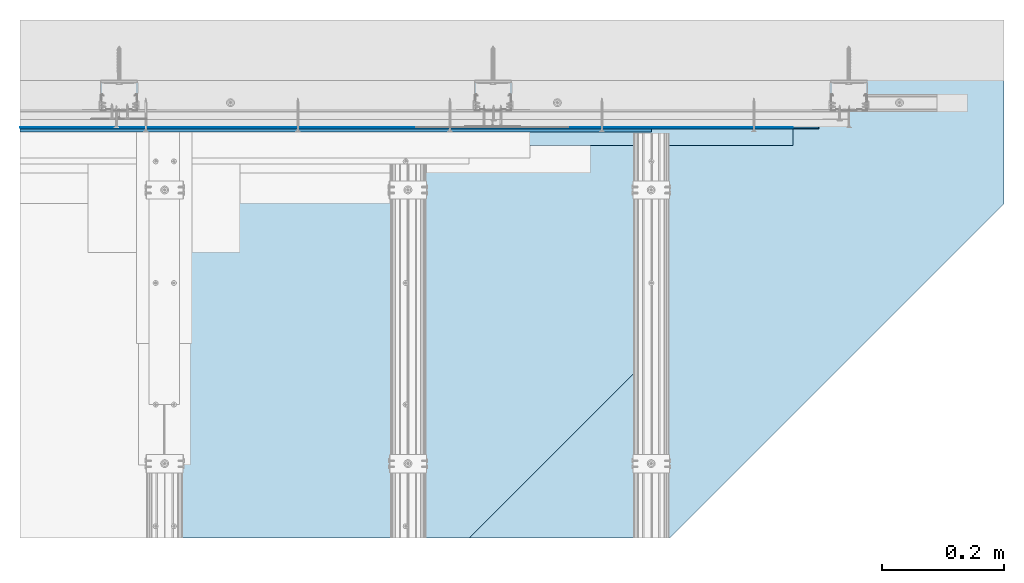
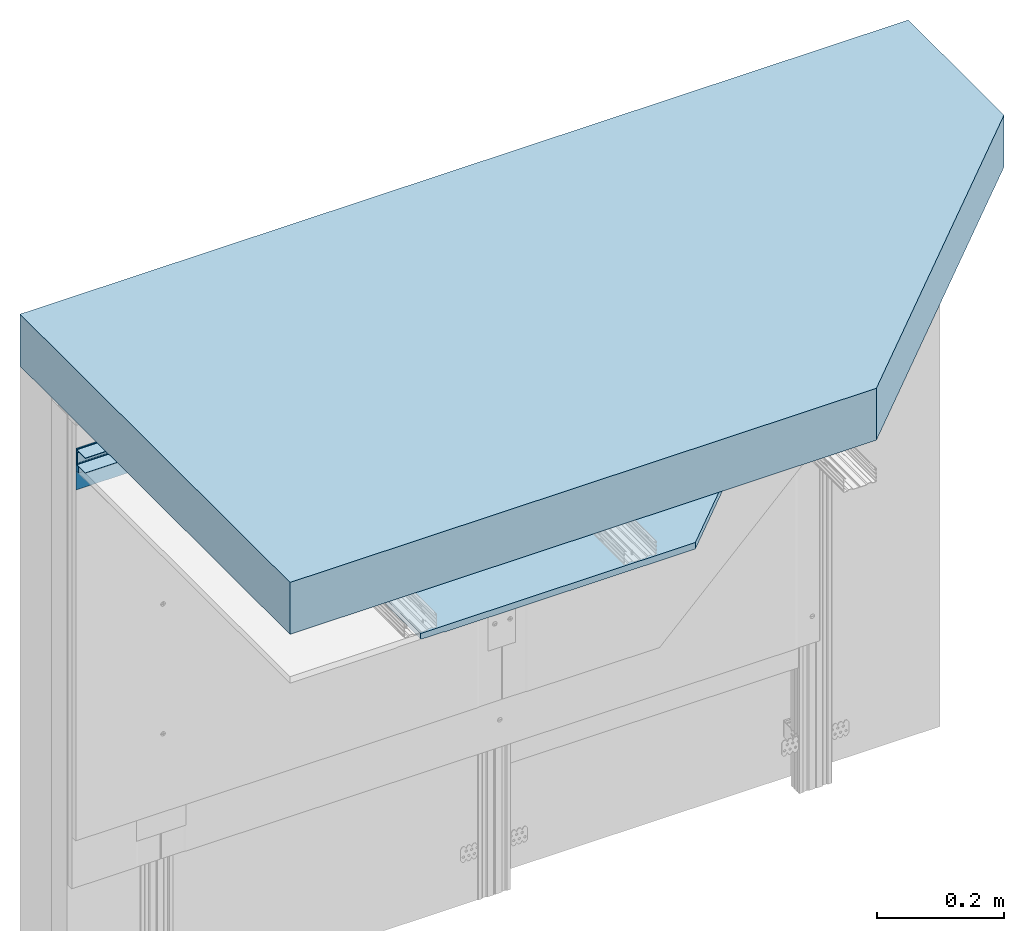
# One storey, part 1 of 62: 6 slabs.
"""IFC2X3 building model written with IfcOpenShell, lengths in millimetres."""

from ifc_helpers import new_model, entity, si_unit, converted_unit, direction, frame, origin, origin_with_axes, place, context, project, spatial, faceted_brep, element, save


model = new_model("IFC2X3")

# Units and contexts
model_context = context("Model", 3, precision=1e-05, world=origin(), true_north=direction((0.0, 1.0, 0.0)))
ifc_project = project(units=[si_unit("LENGTHUNIT", "METRE", prefix="MILLI"), si_unit("AREAUNIT", "SQUARE_METRE"), si_unit("VOLUMEUNIT", "CUBIC_METRE"), converted_unit("PLANEANGLEUNIT", "DEGREE", entity("IfcPlaneAngleMeasure", 0.01745), si_unit("PLANEANGLEUNIT", "RADIAN"), dimensions=[0, 0, 0, 0, 0, 0, 0]), si_unit("SOLIDANGLEUNIT", "STERADIAN"), si_unit("MASSUNIT", "GRAM"), si_unit("TIMEUNIT", "SECOND"), si_unit("THERMODYNAMICTEMPERATUREUNIT", "DEGREE_CELSIUS"), si_unit("LUMINOUSINTENSITYUNIT", "LUMEN")], contexts=[model_context])

# Site, building, storey
site_placement = place(None, origin_with_axes())
site = spatial("IfcSite", under=ifc_project, at=site_placement, Name="Default Site", CompositionType="ELEMENT")
building_placement = place(site_placement, origin_with_axes())
building = spatial("IfcBuilding", under=site, at=building_placement, Name="Default Building", CompositionType="ELEMENT")
storey_placement = place(building_placement, origin_with_axes())
storey = spatial("IfcBuildingStorey", under=building, at=storey_placement, Name="Default Building Storey", CompositionType="ELEMENT", Elevation=0.0)

# Slabs
slab_1_placement = place(storey_placement, frame((3516.951496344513, -1290.142300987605, 1387.224461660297), z_axis=(7.620176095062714e-14, 6.858158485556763e-13, -1.0), x_axis=(1.0, 9.714451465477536e-17, 7.62017609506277e-14)))
element("IfcSlab", 1, at=slab_1_placement, inside=storey, Name="STROP", context=model_context, shape_type="Brep", body=[
    faceted_brep([(226.0891218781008, -3110.283223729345, -4.200000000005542), (-323.9108781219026, -2560.283223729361, -4.20000000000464), (-323.9108781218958, -2560.283223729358, -104.1999999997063), (226.0891218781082, -3110.283223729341, -104.199999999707), (-1391.926362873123, -2560.283223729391, -104.200000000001), (-1391.926362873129, -2560.28322372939, -4.200000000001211), (-1391.926362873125, -3412.283223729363, -104.1999999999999), (226.0891218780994, -3412.283223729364, -104.1999999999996), (-1391.926362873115, -3412.283223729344, -4.199999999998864), (226.0891218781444, -3412.283223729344, -4.200000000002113)], [[[0, 1, 2, 3]], [[4, 2, 1, 5]], [[6, 7, 3, 2, 4]], [[8, 5, 1, 0, 9]], [[0, 3, 7, 9]], [[6, 8, 9, 7]], [[6, 4, 5, 8]]]),
])
slab_2_placement = place(storey_placement, frame((5234.059049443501, 2057.155077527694, 2808.838130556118), z_axis=(-5.694276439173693e-14, -1.0, -6.864231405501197e-13), x_axis=(-1.0, 1.01974472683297e-13, -2.154292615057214e-15)))
element("IfcSlab", 2, at=slab_2_placement, inside=storey, Name="Taśma uszczelniająca piankowa RIGIPS", context=model_context, shape_type="Brep", body=[
    faceted_brep([(1795.629400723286, 1498.966032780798, 113.9750000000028), (1795.629400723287, 1498.966032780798, 110.9750000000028), (1795.629400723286, 1468.966032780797, 110.9750000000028), (1795.629400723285, 1468.966032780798, 113.9750000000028), (3109.033915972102, 1498.966032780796, 110.9750000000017), (3109.033915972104, 1498.966032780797, 113.9750000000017), (3109.033915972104, 1468.966032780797, 113.9750000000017), (3109.033915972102, 1468.966032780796, 110.9750000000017)], [[[0, 1, 2, 3]], [[4, 5, 6, 7]], [[5, 0, 3, 6]], [[6, 3, 2, 7]], [[7, 2, 1, 4]], [[4, 1, 0, 5]]]),
])
slab_3_placement = place(storey_placement, frame((4549.625115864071, 2057.155077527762, 2808.43813055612), z_axis=(-5.694276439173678e-14, -1.0, -6.864231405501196e-13), x_axis=(-1.0, 1.019744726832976e-13, -2.154292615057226e-15)))
element("IfcSlab", 3, at=slab_3_placement, inside=storey, Name="Profil RIGIPS UD30 ULTRASTIL®", context=model_context, shape_type="Brep", body=[
    faceted_brep([(2424.599982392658, 1469.916032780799, 140.9749999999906), (2424.599982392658, 1469.366032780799, 140.9749999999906), (2424.599982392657, 1469.366032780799, 114.7749999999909), (2424.599982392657, 1469.375882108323, 114.6498524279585), (2424.599982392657, 1469.405187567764, 114.5277864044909), (2424.599982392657, 1469.453227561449, 114.4118076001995), (2424.599982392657, 1469.518819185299, 114.304771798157), (2424.599982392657, 1469.60034735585, 114.2093145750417), (2424.599982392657, 1469.695804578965, 114.1277864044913), (2424.599982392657, 1469.802840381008, 114.0621947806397), (2424.599982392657, 1469.9188191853, 114.0141547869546), (2424.599982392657, 1470.040885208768, 113.9848493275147), (2424.599982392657, 1470.1660327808, 113.9749999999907), (2424.599982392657, 1472.016032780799, 113.9749999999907), (2424.599982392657, 1472.163550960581, 113.9887186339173), (2424.599982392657, 1472.306009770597, 114.0294040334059), (2424.599982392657, 1472.438523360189, 114.0956608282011), (2424.599982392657, 1472.556546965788, 114.1852166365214), (2424.599982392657, 1472.656032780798, 114.2949999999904), (2424.599982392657, 1473.676032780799, 115.654999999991), (2424.599982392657, 1473.775518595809, 115.76478336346), (2424.599982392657, 1473.893542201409, 115.8543391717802), (2424.599982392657, 1474.026055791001, 115.9205959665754), (2424.599982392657, 1474.168514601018, 115.9612813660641), (2424.599982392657, 1474.316032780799, 115.9749999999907), (2424.599982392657, 1493.6160327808, 115.9749999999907), (2424.599982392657, 1493.763550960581, 115.9612813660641), (2424.599982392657, 1493.906009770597, 115.9205959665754), (2424.599982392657, 1494.038523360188, 115.8543391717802), (2424.599982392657, 1494.156546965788, 115.7647833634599), (2424.599982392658, 1494.2560327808, 115.654999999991), (2424.599982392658, 1495.276032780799, 114.2949999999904), (2424.599982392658, 1495.37551859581, 114.1852166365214), (2424.599982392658, 1495.493542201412, 114.0956608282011), (2424.599982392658, 1495.626055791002, 114.0294040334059), (2424.599982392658, 1495.768514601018, 113.9887186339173), (2424.599982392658, 1495.916032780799, 113.9749999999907), (2424.599982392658, 1497.766032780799, 113.9749999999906), (2424.599982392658, 1497.891180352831, 113.9848493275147), (2424.599982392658, 1498.013246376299, 114.0141547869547), (2424.599982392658, 1498.129225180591, 114.0621947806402), (2424.599982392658, 1498.236260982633, 114.1277864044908), (2424.599982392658, 1498.331718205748, 114.2093145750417), (2424.599982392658, 1498.413246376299, 114.304771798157), (2424.599982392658, 1498.47883800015, 114.411807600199), (2424.599982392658, 1498.526877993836, 114.5277864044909), (2424.599982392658, 1498.556183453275, 114.6498524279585), (2424.599982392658, 1498.566032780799, 114.7749999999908), (2424.599982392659, 1498.566032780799, 140.9749999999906), (2424.599982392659, 1498.016032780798, 140.9749999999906), (2424.599982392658, 1498.016032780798, 114.7749999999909), (2424.599982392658, 1498.012954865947, 114.7358913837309), (2424.599982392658, 1498.003796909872, 114.697745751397), (2424.599982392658, 1497.988784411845, 114.6615023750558), (2424.599982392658, 1497.968287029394, 114.6280536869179), (2424.599982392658, 1497.942809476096, 114.5982233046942), (2424.599982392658, 1497.912979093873, 114.572745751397), (2424.599982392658, 1497.879530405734, 114.5522483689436), (2424.599982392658, 1497.843287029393, 114.5372358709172), (2424.599982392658, 1497.805141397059, 114.5280779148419), (2424.599982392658, 1497.766032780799, 114.5249999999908), (2424.599982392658, 1495.916032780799, 114.5249999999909), (2424.599982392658, 1495.869933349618, 114.5292870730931), (2424.599982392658, 1495.825414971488, 114.542001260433), (2424.599982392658, 1495.78400447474, 114.5627065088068), (2424.599982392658, 1495.747122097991, 114.5906926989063), (2424.599982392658, 1495.716032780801, 114.6249999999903), (2424.599982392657, 1494.6960327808, 115.9849999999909), (2424.599982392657, 1494.52815046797, 116.1702594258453), (2424.599982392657, 1494.328985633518, 116.3213848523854), (2424.599982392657, 1494.105368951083, 116.4331931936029), (2424.599982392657, 1493.864969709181, 116.5018498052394), (2424.599982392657, 1493.6160327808, 116.5249999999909), (2424.599982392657, 1474.3160327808, 116.5249999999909), (2424.599982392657, 1474.067095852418, 116.5018498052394), (2424.599982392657, 1473.826696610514, 116.4331931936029), (2424.599982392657, 1473.60307992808, 116.3213848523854), (2424.599982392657, 1473.40391509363, 116.1702594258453), (2424.599982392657, 1473.2360327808, 115.9849999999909), (2424.599982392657, 1472.2160327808, 114.6249999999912), (2424.599982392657, 1472.184943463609, 114.5906926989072), (2424.599982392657, 1472.148061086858, 114.5627065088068), (2424.599982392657, 1472.106650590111, 114.5420012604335), (2424.599982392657, 1472.062132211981, 114.5292870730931), (2424.599982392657, 1472.0160327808, 114.5249999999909), (2424.599982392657, 1470.1660327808, 114.5249999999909), (2424.599982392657, 1470.12692416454, 114.5280779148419), (2424.599982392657, 1470.088778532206, 114.5372358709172), (2424.599982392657, 1470.052535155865, 114.5522483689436), (2424.599982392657, 1470.019086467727, 114.572745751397), (2424.599982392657, 1469.989256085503, 114.5982233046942), (2424.599982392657, 1469.963778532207, 114.6280536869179), (2424.599982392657, 1469.943281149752, 114.6615023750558), (2424.599982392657, 1469.928268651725, 114.6977457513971), (2424.599982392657, 1469.91911069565, 114.7358913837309), (2424.599982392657, 1469.916032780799, 114.7749999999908), (1153.644290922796, 1469.366032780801, 114.7750000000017), (1153.644290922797, 1469.366032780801, 140.9750000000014), (1153.644290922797, 1469.916032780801, 140.9750000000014), (1153.644290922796, 1469.916032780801, 114.7750000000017), (1153.644290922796, 1469.919110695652, 114.7358913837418), (1153.644290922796, 1469.928268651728, 114.6977457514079), (1153.644290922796, 1469.943281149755, 114.6615023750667), (1153.644290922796, 1469.963778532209, 114.6280536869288), (1153.644290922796, 1469.989256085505, 114.598223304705), (1153.644290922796, 1470.019086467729, 114.5727457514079), (1153.644290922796, 1470.052535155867, 114.5522483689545), (1153.644290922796, 1470.088778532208, 114.5372358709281), (1153.644290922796, 1470.126924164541, 114.5280779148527), (1153.644290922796, 1470.166032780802, 114.5250000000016), (1153.644290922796, 1472.016032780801, 114.5250000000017), (1153.644290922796, 1472.062132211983, 114.5292870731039), (1153.644290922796, 1472.106650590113, 114.5420012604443), (1153.644290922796, 1472.14806108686, 114.5627065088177), (1153.644290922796, 1472.18494346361, 114.590692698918), (1153.644290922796, 1472.216032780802, 114.625000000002), (1153.644290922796, 1473.236032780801, 115.9850000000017), (1153.644290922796, 1473.403915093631, 116.1702594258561), (1153.644290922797, 1473.603079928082, 116.3213848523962), (1153.644290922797, 1473.826696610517, 116.4331931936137), (1153.644290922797, 1474.06709585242, 116.5018498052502), (1153.644290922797, 1474.316032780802, 116.5250000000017), (1153.644290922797, 1493.616032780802, 116.5250000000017), (1153.644290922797, 1493.864969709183, 116.5018498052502), (1153.644290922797, 1494.105368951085, 116.4331931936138), (1153.644290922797, 1494.32898563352, 116.3213848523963), (1153.644290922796, 1494.528150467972, 116.1702594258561), (1153.644290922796, 1494.696032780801, 115.9850000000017), (1153.644290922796, 1495.716032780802, 114.6250000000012), (1153.644290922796, 1495.747122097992, 114.5906926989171), (1153.644290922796, 1495.784004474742, 114.5627065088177), (1153.644290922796, 1495.82541497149, 114.5420012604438), (1153.644290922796, 1495.869933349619, 114.5292870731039), (1153.644290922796, 1495.916032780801, 114.5250000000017), (1153.644290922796, 1497.766032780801, 114.5250000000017), (1153.644290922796, 1497.805141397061, 114.5280779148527), (1153.644290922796, 1497.843287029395, 114.537235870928), (1153.644290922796, 1497.879530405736, 114.5522483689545), (1153.644290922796, 1497.912979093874, 114.5727457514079), (1153.644290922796, 1497.942809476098, 114.598223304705), (1153.644290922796, 1497.968287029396, 114.6280536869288), (1153.644290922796, 1497.988784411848, 114.6615023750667), (1153.644290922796, 1498.003796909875, 114.6977457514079), (1153.644290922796, 1498.012954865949, 114.7358913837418), (1153.644290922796, 1498.016032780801, 114.7750000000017), (1153.644290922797, 1498.016032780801, 140.9750000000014), (1153.644290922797, 1498.566032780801, 140.9750000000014), (1153.644290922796, 1498.566032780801, 114.7750000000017), (1153.644290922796, 1498.556183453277, 114.6498524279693), (1153.644290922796, 1498.526877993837, 114.5277864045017), (1153.644290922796, 1498.478838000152, 114.4118076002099), (1153.644290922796, 1498.413246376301, 114.3047717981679), (1153.644290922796, 1498.33171820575, 114.2093145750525), (1153.644290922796, 1498.236260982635, 114.1277864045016), (1153.644290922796, 1498.129225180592, 114.062194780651), (1153.644290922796, 1498.013246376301, 114.0141547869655), (1153.644290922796, 1497.891180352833, 113.9848493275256), (1153.644290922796, 1497.766032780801, 113.9750000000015), (1153.644290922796, 1495.916032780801, 113.9750000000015), (1153.644290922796, 1495.768514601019, 113.9887186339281), (1153.644290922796, 1495.626055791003, 114.0294040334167), (1153.644290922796, 1495.493542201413, 114.0956608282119), (1153.644290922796, 1495.375518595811, 114.1852166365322), (1153.644290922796, 1495.276032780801, 114.2950000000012), (1153.644290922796, 1494.256032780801, 115.6550000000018), (1153.644290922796, 1494.156546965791, 115.7647833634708), (1153.644290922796, 1494.03852336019, 115.854339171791), (1153.644290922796, 1493.906009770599, 115.9205959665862), (1153.644290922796, 1493.763550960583, 115.9612813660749), (1153.644290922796, 1493.616032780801, 115.9750000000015), (1153.644290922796, 1474.316032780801, 115.9750000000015), (1153.644290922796, 1474.168514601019, 115.9612813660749), (1153.644290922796, 1474.026055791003, 115.9205959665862), (1153.644290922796, 1473.893542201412, 115.854339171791), (1153.644290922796, 1473.775518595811, 115.7647833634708), (1153.644290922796, 1473.676032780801, 115.6550000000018), (1153.644290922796, 1472.6560327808, 114.2950000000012), (1153.644290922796, 1472.55654696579, 114.1852166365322), (1153.644290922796, 1472.438523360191, 114.095660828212), (1153.644290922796, 1472.306009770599, 114.0294040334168), (1153.644290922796, 1472.163550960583, 113.9887186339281), (1153.644290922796, 1472.016032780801, 113.9750000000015), (1153.644290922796, 1470.166032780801, 113.9750000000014), (1153.644290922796, 1470.040885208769, 113.9848493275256), (1153.644290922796, 1469.918819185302, 114.0141547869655), (1153.644290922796, 1469.80284038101, 114.0621947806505), (1153.644290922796, 1469.695804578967, 114.1277864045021), (1153.644290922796, 1469.600347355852, 114.2093145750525), (1153.644290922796, 1469.518819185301, 114.3047717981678), (1153.644290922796, 1469.453227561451, 114.4118076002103), (1153.644290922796, 1469.405187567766, 114.5277864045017), (1153.644290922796, 1469.375882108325, 114.6498524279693)], [[[0, 1, 2, 3, 4, 5, 6, 7, 8, 9, 10, 11, 12, 13, 14, 15, 16, 17, 18, 19, 20, 21, 22, 23, 24, 25, 26, 27, 28, 29, 30, 31, 32, 33, 34, 35, 36, 37, 38, 39, 40, 41, 42, 43, 44, 45, 46, 47, 48, 49, 50, 51, 52, 53, 54, 55, 56, 57, 58, 59, 60, 61, 62, 63, 64, 65, 66, 67, 68, 69, 70, 71, 72, 73, 74, 75, 76, 77, 78, 79, 80, 81, 82, 83, 84, 85, 86, 87, 88, 89, 90, 91, 92, 93, 94, 95]], [[96, 97, 98, 99, 100, 101, 102, 103, 104, 105, 106, 107, 108, 109, 110, 111, 112, 113, 114, 115, 116, 117, 118, 119, 120, 121, 122, 123, 124, 125, 126, 127, 128, 129, 130, 131, 132, 133, 134, 135, 136, 137, 138, 139, 140, 141, 142, 143, 144, 145, 146, 147, 148, 149, 150, 151, 152, 153, 154, 155, 156, 157, 158, 159, 160, 161, 162, 163, 164, 165, 166, 167, 168, 169, 170, 171, 172, 173, 174, 175, 176, 177, 178, 179, 180, 181, 182, 183, 184, 185, 186, 187, 188, 189, 190, 191]], [[23, 171, 170, 24]], [[22, 172, 171, 23]], [[175, 174, 20, 19]], [[172, 22, 21, 173]], [[20, 174, 173, 21]], [[24, 170, 169, 25]], [[29, 165, 164, 30]], [[165, 29, 28, 166]], [[27, 167, 166, 28]], [[169, 168, 26, 25]], [[26, 168, 167, 27]], [[30, 164, 163, 31]], [[35, 159, 158, 36]], [[34, 160, 159, 35]], [[33, 32, 162, 161]], [[161, 160, 34, 33]], [[163, 162, 32, 31]], [[36, 158, 157, 37]], [[46, 45, 149, 148]], [[148, 147, 47, 46]], [[44, 150, 149, 45]], [[43, 42, 152, 151]], [[151, 150, 44, 43]], [[41, 40, 154, 153]], [[153, 152, 42, 41]], [[39, 155, 154, 40]], [[38, 37, 157, 156]], [[156, 155, 39, 38]], [[47, 147, 146, 48]], [[48, 146, 145, 49]], [[49, 145, 144, 50]], [[134, 60, 59, 135]], [[58, 136, 135, 59]], [[57, 137, 136, 58]], [[137, 57, 56, 138]], [[55, 139, 138, 56]], [[139, 55, 54, 140]], [[53, 141, 140, 54]], [[52, 142, 141, 53]], [[142, 52, 51, 143]], [[50, 144, 143, 51]], [[60, 134, 133, 61]], [[65, 129, 128, 66]], [[129, 65, 64, 130]], [[63, 131, 130, 64]], [[133, 132, 62, 61]], [[62, 132, 131, 63]], [[66, 128, 127, 67]], [[71, 123, 122, 72]], [[70, 69, 125, 124]], [[124, 123, 71, 70]], [[68, 126, 125, 69]], [[127, 126, 68, 67]], [[72, 122, 121, 73]], [[77, 117, 116, 78]], [[76, 118, 117, 77]], [[75, 74, 120, 119]], [[119, 118, 76, 75]], [[121, 120, 74, 73]], [[78, 116, 115, 79]], [[83, 111, 110, 84]], [[82, 112, 111, 83]], [[115, 114, 80, 79]], [[112, 82, 81, 113]], [[80, 114, 113, 81]], [[84, 110, 109, 85]], [[99, 95, 94, 100]], [[93, 101, 100, 94]], [[92, 102, 101, 93]], [[102, 92, 91, 103]], [[90, 104, 103, 91]], [[104, 90, 89, 105]], [[88, 106, 105, 89]], [[87, 107, 106, 88]], [[107, 87, 86, 108]], [[85, 109, 108, 86]], [[95, 99, 98, 0]], [[0, 98, 97, 1]], [[1, 97, 96, 2]], [[11, 10, 184, 183]], [[183, 182, 12, 11]], [[9, 185, 184, 10]], [[6, 5, 189, 188]], [[7, 6, 188, 187]], [[8, 7, 187, 186]], [[186, 185, 9, 8]], [[4, 190, 189, 5]], [[3, 2, 96, 191]], [[191, 190, 4, 3]], [[12, 182, 181, 13]], [[17, 177, 176, 18]], [[16, 15, 179, 178]], [[178, 177, 17, 16]], [[14, 180, 179, 15]], [[181, 180, 14, 13]], [[18, 176, 175, 19]]]),
])
slab_4_placement = place(storey_placement, frame((3163.345703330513, 1946.180077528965, 1297.372097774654), z_axis=(0.0, -1.0, 3.330669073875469e-16), x_axis=(1.0, 0.0, 0.0)))
element("IfcSlab", 4, at=slab_4_placement, inside=storey, Name="Dedykowana masa szpachlowa Rigips - konstrukcyjna", context=model_context, shape_type="Brep", body=[
    faceted_brep([(0.0, 12.50000000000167, 1.000000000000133), (0.0, 0.0, 1.000000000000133), (-1038.320569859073, 0.0, 1.000000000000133), (-1038.320569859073, 12.50000000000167, 1.000000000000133), (0.0, 0.0, 8.614392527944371), (-1038.320569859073, 0.0, 8.614392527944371), (0.0, 12.50000000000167, 8.614392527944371), (-1038.320569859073, 12.50000000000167, 8.614392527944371)], [[[0, 1, 2, 3]], [[1, 4, 5, 2]], [[4, 6, 7, 5]], [[6, 0, 3, 7]], [[7, 3, 2, 5]], [[0, 6, 4, 1]]]),
])
slab_5_placement = place(storey_placement, frame((2362.976086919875, 886.56410331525, 1309.872097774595), z_axis=(-3.36311631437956e-44, -1.0, 3.330669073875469e-16), x_axis=(1.0, -2.12807555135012e-28, -6.389333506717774e-13)))
element("IfcSlab", 5, at=slab_5_placement, inside=storey, Name="Płyta gipsowo-kartonowa RIGIPS PRO (4PRO™)", context=model_context, shape_type="Brep", body=[
    faceted_brep([(800.3696164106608, -12.49999999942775, -683.5768194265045), (500.3696164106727, -12.49999999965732, -383.5768194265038), (500.369616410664, 3.142119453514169e-10, -383.5768194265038), (800.369616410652, 5.437797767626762e-10, -683.5768194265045), (800.3696164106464, -12.49999999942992, -1050.001581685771), (44.99999999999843, -12.50000000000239, -1050.001581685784), (44.99999999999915, -12.50000000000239, -383.5768194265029), (800.3696164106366, 5.423359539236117e-10, -1050.001581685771), (41.00000000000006, -11.5000000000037, -383.5768194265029), (0.9999999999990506, -11.50000000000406, -383.5768194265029), (0.7411809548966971, -11.4659258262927, -383.5768194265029), (0.4999999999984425, -11.3660254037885, -383.5768194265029), (0.292893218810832, -11.20710678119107, -383.5768194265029), (0.1339745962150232, -11.00000000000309, -383.5768194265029), (0.03407417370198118, -10.75881904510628, -383.5768194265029), (-1.804778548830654e-12, -10.50000000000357, -383.5768194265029), (7.219114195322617e-13, -1.804778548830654e-13, -383.5768194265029), (40.99999999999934, -11.5000000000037, -1050.001581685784), (0.9999999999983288, -11.5000000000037, -1050.001581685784), (0.7411809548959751, -11.46592582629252, -1050.001581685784), (0.4999999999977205, -11.3660254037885, -1050.001581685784), (0.29289321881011, -11.20710678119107, -1050.001581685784), (0.1339745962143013, -11.00000000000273, -1050.001581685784), (0.03407417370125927, -10.75881904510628, -1050.001581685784), (-2.526689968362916e-12, -10.50000000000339, -1050.001581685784), (0.0, 0.0, -1050.001581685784)], [[[0, 1, 2, 3]], [[0, 4, 5, 6, 1]], [[3, 7, 4, 0]], [[2, 1, 6, 8, 9, 10, 11, 12, 13, 14, 15, 16]], [[8, 6, 5, 17]], [[9, 8, 17, 18]], [[10, 9, 18, 19]], [[11, 10, 19, 20]], [[12, 11, 20, 21]], [[13, 12, 21, 22]], [[14, 13, 22, 23]], [[15, 14, 23, 24]], [[16, 15, 24, 25]], [[2, 16, 25, 7, 3]], [[5, 4, 7, 25, 24, 23, 22, 21, 20, 19, 18, 17]]]),
])
slab_6_placement = place(storey_placement, frame((2662.573239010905, -1444.356643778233, 2022.331314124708), z_axis=(1.0, 3.235562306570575e-32, 1.110223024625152e-16), x_axis=(-1.110223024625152e-16, -2.359223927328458e-16, 1.0)))
element("IfcSlab", 6, at=slab_6_placement, inside=storey, Name="Taśma samoprzylepna RIGIPS (ślizgowa)", context=model_context, shape_type="Brep", body=[
    faceted_brep([(-712.4592163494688, -3389.656721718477, 733.4075859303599), (-712.4592163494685, -3389.856721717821, 733.4075859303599), (-762.4592163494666, -3389.856721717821, 733.4075859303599), (-762.4592163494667, -3389.656721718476, 733.4075859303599), (-712.4592163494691, -3389.856721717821, -537.5205698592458), (-712.4592163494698, -3389.656721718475, -537.5205698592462), (-762.4592163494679, -3389.656721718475, -537.5205698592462), (-762.459216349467, -3389.856721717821, -537.5205698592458)], [[[0, 1, 2, 3]], [[4, 5, 6, 7]], [[5, 0, 3, 6]], [[6, 3, 2, 7]], [[7, 2, 1, 4]], [[4, 1, 0, 5]]]),
])

save(model, "model.ifc")
